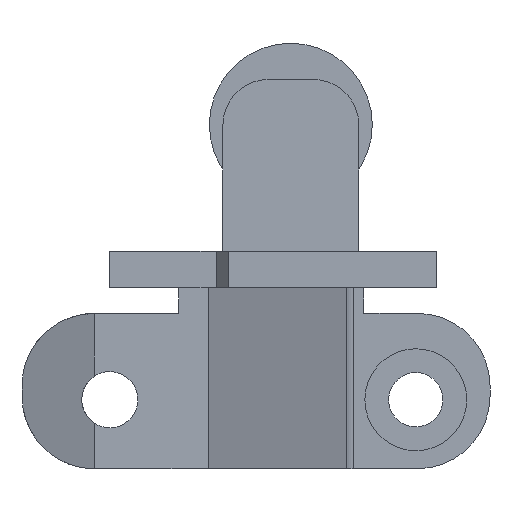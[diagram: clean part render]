
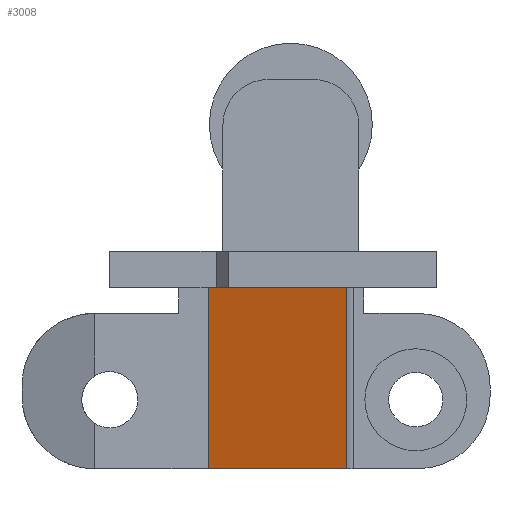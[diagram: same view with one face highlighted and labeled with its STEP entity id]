
A CAD part, left-side view. The second image highlights one B-rep face of the part: STEP entity #3008.
In plain terms, the highlighted planar face has unit normal (-0.934, 0.358, 0).
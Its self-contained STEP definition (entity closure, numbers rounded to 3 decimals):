
#713 = PLANE ( 'NONE',  #794 ) ;
#754 = FACE_OUTER_BOUND ( 'NONE', #3041, .T. ) ;
#759 = DIRECTION ( 'NONE',  ( -0.934, 0.358, 0. ) ) ;
#760 = CARTESIAN_POINT ( 'NONE',  ( 171.6, 131.422, 27.6 ) ) ;
#767 = CARTESIAN_POINT ( 'NONE',  ( 171.6, 131.422, 28.1 ) ) ;
#771 = CARTESIAN_POINT ( 'NONE',  ( 171.6, 131.422, 27.6 ) ) ;
#772 = LINE ( 'NONE', #771, #844 ) ;
#784 = DIRECTION ( 'NONE',  ( -0.358, -0.934, 0. ) ) ;
#787 = DIRECTION ( 'NONE',  ( -0.358, -0.934, 0. ) ) ;
#788 = VECTOR ( 'NONE', #784, 1000. ) ;
#789 = CARTESIAN_POINT ( 'NONE',  ( 171.6, 131.422, 28.1 ) ) ;
#793 = LINE ( 'NONE', #789, #788 ) ;
#794 = AXIS2_PLACEMENT_3D ( 'NONE', #760, #759, #787 ) ;
#843 = DIRECTION ( 'NONE',  ( 0., 0., -1. ) ) ;
#844 = VECTOR ( 'NONE', #843, 1000. ) ;
#2237 = DIRECTION ( 'NONE',  ( -0.358, -0.934, 0. ) ) ;
#2240 = CARTESIAN_POINT ( 'NONE',  ( 171.6, 131.422, 8.1 ) ) ;
#2241 = LINE ( 'NONE', #2240, #2254 ) ;
#2246 = CARTESIAN_POINT ( 'NONE',  ( 171.6, 131.422, 8.1 ) ) ;
#2254 = VECTOR ( 'NONE', #2237, 1000. ) ;
#2346 = CARTESIAN_POINT ( 'NONE',  ( 165.733, 116.132, 8.1 ) ) ;
#2373 = DIRECTION ( 'NONE',  ( 0., 0., 1. ) ) ;
#2374 = VECTOR ( 'NONE', #2373, 1000. ) ;
#2375 = CARTESIAN_POINT ( 'NONE',  ( 165.733, 116.132, 27.6 ) ) ;
#2376 = LINE ( 'NONE', #2375, #2374 ) ;
#2377 = CARTESIAN_POINT ( 'NONE',  ( 165.733, 116.132, 28.1 ) ) ;
#3008 = ADVANCED_FACE ( 'NONE', ( #754 ), #713, .T. ) ;
#3010 = EDGE_CURVE ( 'NONE', #3023, #4013, #793, .T. ) ;
#3011 = ORIENTED_EDGE ( 'NONE', *, *, #3045, .T. ) ;
#3023 = VERTEX_POINT ( 'NONE', #767 ) ;
#3041 = EDGE_LOOP ( 'NONE', ( #3091, #3060, #3011, #3069 ) ) ;
#3045 = EDGE_CURVE ( 'NONE', #3023, #3927, #772, .T. ) ;
#3060 = ORIENTED_EDGE ( 'NONE', *, *, #3010, .F. ) ;
#3069 = ORIENTED_EDGE ( 'NONE', *, *, #3932, .T. ) ;
#3091 = ORIENTED_EDGE ( 'NONE', *, *, #4011, .T. ) ;
#3927 = VERTEX_POINT ( 'NONE', #2246 ) ;
#3932 = EDGE_CURVE ( 'NONE', #3927, #4007, #2241, .T. ) ;
#4007 = VERTEX_POINT ( 'NONE', #2346 ) ;
#4011 = EDGE_CURVE ( 'NONE', #4007, #4013, #2376, .T. ) ;
#4013 = VERTEX_POINT ( 'NONE', #2377 ) ;
